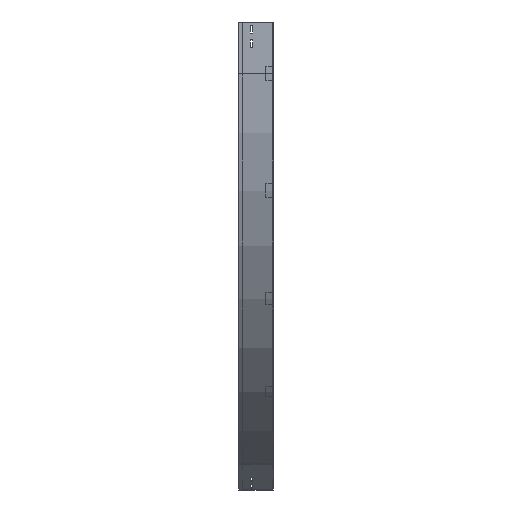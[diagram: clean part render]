
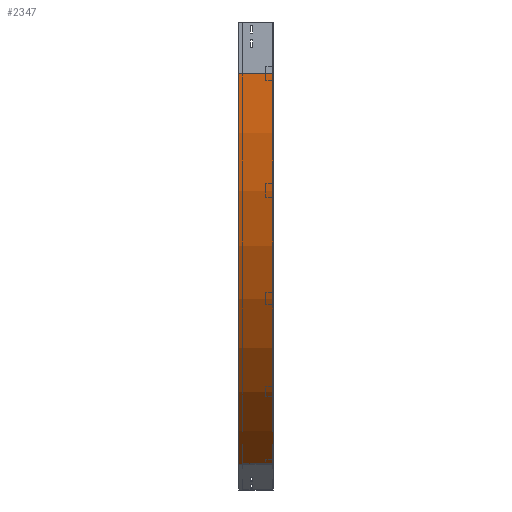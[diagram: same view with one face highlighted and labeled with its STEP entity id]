
A CAD part, left-side view. The second image highlights one B-rep face of the part: STEP entity #2347.
In plain terms, the highlighted cylindrical face has radius 1300 mm (diameter 2600 mm), a partial arc.
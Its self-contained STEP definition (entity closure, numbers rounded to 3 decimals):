
#75 = AXIS2_PLACEMENT_3D ( 'NONE', #2133, #3628, #595 ) ;
#99 = CARTESIAN_POINT ( 'NONE',  ( 650., 0., -1275.833 ) ) ;
#153 = VERTEX_POINT ( 'NONE', #811 ) ;
#155 = CARTESIAN_POINT ( 'NONE',  ( 1300., 0., -150. ) ) ;
#197 = ORIENTED_EDGE ( 'NONE', *, *, #3513, .T. ) ;
#202 = CIRCLE ( 'NONE', #3266, 1300. ) ;
#291 = VERTEX_POINT ( 'NONE', #1223 ) ;
#358 = CYLINDRICAL_SURFACE ( 'NONE', #75, 1300. ) ;
#595 = DIRECTION ( 'NONE',  ( 0., 0., -1. ) ) ;
#811 = CARTESIAN_POINT ( 'NONE',  ( 650., 0., -1275.833 ) ) ;
#886 = EDGE_LOOP ( 'NONE', ( #1359, #3141, #1952, #197 ) ) ;
#988 = DIRECTION ( 'NONE',  ( -1., 0., 0. ) ) ;
#1223 = CARTESIAN_POINT ( 'NONE',  ( 0., 0., -150. ) ) ;
#1359 = ORIENTED_EDGE ( 'NONE', *, *, #2425, .F. ) ;
#1417 = CARTESIAN_POINT ( 'NONE',  ( 1300., 100., -150. ) ) ;
#1734 = CARTESIAN_POINT ( 'NONE',  ( 0., 100., -150. ) ) ;
#1952 = ORIENTED_EDGE ( 'NONE', *, *, #2791, .T. ) ;
#2034 = DIRECTION ( 'NONE',  ( 0., -1., 0. ) ) ;
#2133 = CARTESIAN_POINT ( 'NONE',  ( 1300., 0., -150. ) ) ;
#2331 = CIRCLE ( 'NONE', #2394, 1300. ) ;
#2347 = ADVANCED_FACE ( 'NONE', ( #3308 ), #358, .T. ) ;
#2394 = AXIS2_PLACEMENT_3D ( 'NONE', #1417, #2614, #2881 ) ;
#2408 = VECTOR ( 'NONE', #2034, 1000. ) ;
#2425 = EDGE_CURVE ( 'NONE', #291, #153, #202, .T. ) ;
#2561 = VERTEX_POINT ( 'NONE', #2620 ) ;
#2569 = VERTEX_POINT ( 'NONE', #1734 ) ;
#2614 = DIRECTION ( 'NONE',  ( 0., -1., 0. ) ) ;
#2620 = CARTESIAN_POINT ( 'NONE',  ( 650., 100., -1275.833 ) ) ;
#2649 = CARTESIAN_POINT ( 'NONE',  ( 0., 0., -150. ) ) ;
#2787 = DIRECTION ( 'NONE',  ( 0., -1., 0. ) ) ;
#2791 = EDGE_CURVE ( 'NONE', #2569, #2561, #2331, .T. ) ;
#2881 = DIRECTION ( 'NONE',  ( -1., 0., 0. ) ) ;
#2931 = LINE ( 'NONE', #2649, #2408 ) ;
#3087 = VECTOR ( 'NONE', #3679, 1000. ) ;
#3141 = ORIENTED_EDGE ( 'NONE', *, *, #3263, .F. ) ;
#3263 = EDGE_CURVE ( 'NONE', #2569, #291, #2931, .T. ) ;
#3266 = AXIS2_PLACEMENT_3D ( 'NONE', #155, #2787, #988 ) ;
#3308 = FACE_OUTER_BOUND ( 'NONE', #886, .T. ) ;
#3386 = LINE ( 'NONE', #99, #3087 ) ;
#3513 = EDGE_CURVE ( 'NONE', #2561, #153, #3386, .T. ) ;
#3628 = DIRECTION ( 'NONE',  ( 0., -1., 0. ) ) ;
#3679 = DIRECTION ( 'NONE',  ( 0., -1., 0. ) ) ;
